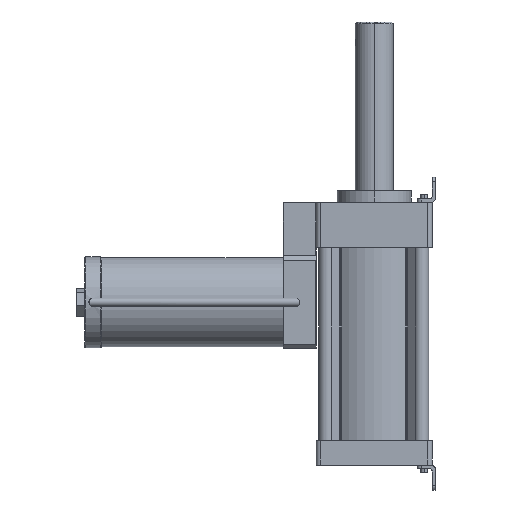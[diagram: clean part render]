
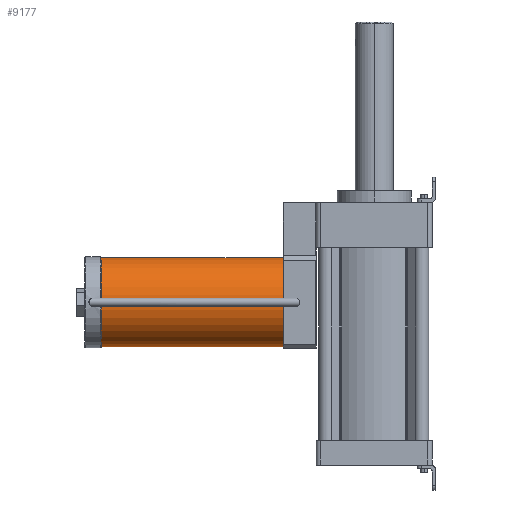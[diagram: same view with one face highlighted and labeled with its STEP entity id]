
A CAD part, left-side view. The second image highlights one B-rep face of the part: STEP entity #9177.
In plain terms, the highlighted cylindrical face has radius 54 mm (diameter 108 mm), a partial arc.
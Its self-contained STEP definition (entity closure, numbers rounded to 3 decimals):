
#1003 = ORIENTED_EDGE ( 'NONE', *, *, #11857, .T. ) ;
#1051 = AXIS2_PLACEMENT_3D ( 'NONE', #3412, #10015, #4368 ) ;
#1265 = CARTESIAN_POINT ( 'NONE',  ( 0., 330., -93.5 ) ) ;
#1445 = ORIENTED_EDGE ( 'NONE', *, *, #10059, .T. ) ;
#1855 = CARTESIAN_POINT ( 'NONE',  ( 0., 330., -147.5 ) ) ;
#2271 = DIRECTION ( 'NONE',  ( 0., 0., 1. ) ) ;
#2340 = VERTEX_POINT ( 'NONE', #5243 ) ;
#3351 = AXIS2_PLACEMENT_3D ( 'NONE', #7831, #10629, #8753 ) ;
#3412 = CARTESIAN_POINT ( 'NONE',  ( 0., 110., -93.5 ) ) ;
#3414 = CARTESIAN_POINT ( 'NONE',  ( 0., 330., -147.5 ) ) ;
#3754 = AXIS2_PLACEMENT_3D ( 'NONE', #1265, #8000, #2271 ) ;
#4368 = DIRECTION ( 'NONE',  ( 0., 0., -1. ) ) ;
#5119 = DIRECTION ( 'NONE',  ( 0., -1., 0. ) ) ;
#5243 = CARTESIAN_POINT ( 'NONE',  ( 0., 110., -39.5 ) ) ;
#5359 = VERTEX_POINT ( 'NONE', #7012 ) ;
#5810 = EDGE_CURVE ( 'NONE', #5359, #2340, #8869, .T. ) ;
#6059 = CARTESIAN_POINT ( 'NONE',  ( 0., 110., -147.5 ) ) ;
#6077 = CIRCLE ( 'NONE', #3754, 54. ) ;
#6370 = CIRCLE ( 'NONE', #1051, 54. ) ;
#6386 = VECTOR ( 'NONE', #5119, 1000. ) ;
#6839 = EDGE_LOOP ( 'NONE', ( #9302, #7503, #1445, #1003 ) ) ;
#7012 = CARTESIAN_POINT ( 'NONE',  ( 0., 330., -39.5 ) ) ;
#7481 = LINE ( 'NONE', #1855, #10251 ) ;
#7503 = ORIENTED_EDGE ( 'NONE', *, *, #7997, .F. ) ;
#7597 = DIRECTION ( 'NONE',  ( 0., -1., 0. ) ) ;
#7805 = FACE_OUTER_BOUND ( 'NONE', #6839, .T. ) ;
#7831 = CARTESIAN_POINT ( 'NONE',  ( 0., 330., -93.5 ) ) ;
#7997 = EDGE_CURVE ( 'NONE', #8204, #5359, #6077, .T. ) ;
#8000 = DIRECTION ( 'NONE',  ( 0., 1., 0. ) ) ;
#8204 = VERTEX_POINT ( 'NONE', #3414 ) ;
#8753 = DIRECTION ( 'NONE',  ( 0., 0., -1. ) ) ;
#8857 = CARTESIAN_POINT ( 'NONE',  ( 0., 330., -39.5 ) ) ;
#8869 = LINE ( 'NONE', #8857, #6386 ) ;
#9177 = ADVANCED_FACE ( 'NONE', ( #7805 ), #9687, .T. ) ;
#9302 = ORIENTED_EDGE ( 'NONE', *, *, #5810, .F. ) ;
#9687 = CYLINDRICAL_SURFACE ( 'NONE', #3351, 54. ) ;
#10015 = DIRECTION ( 'NONE',  ( 0., 1., 0. ) ) ;
#10059 = EDGE_CURVE ( 'NONE', #8204, #12259, #7481, .T. ) ;
#10251 = VECTOR ( 'NONE', #7597, 1000. ) ;
#10629 = DIRECTION ( 'NONE',  ( 0., -1., 0. ) ) ;
#11857 = EDGE_CURVE ( 'NONE', #12259, #2340, #6370, .T. ) ;
#12259 = VERTEX_POINT ( 'NONE', #6059 ) ;
